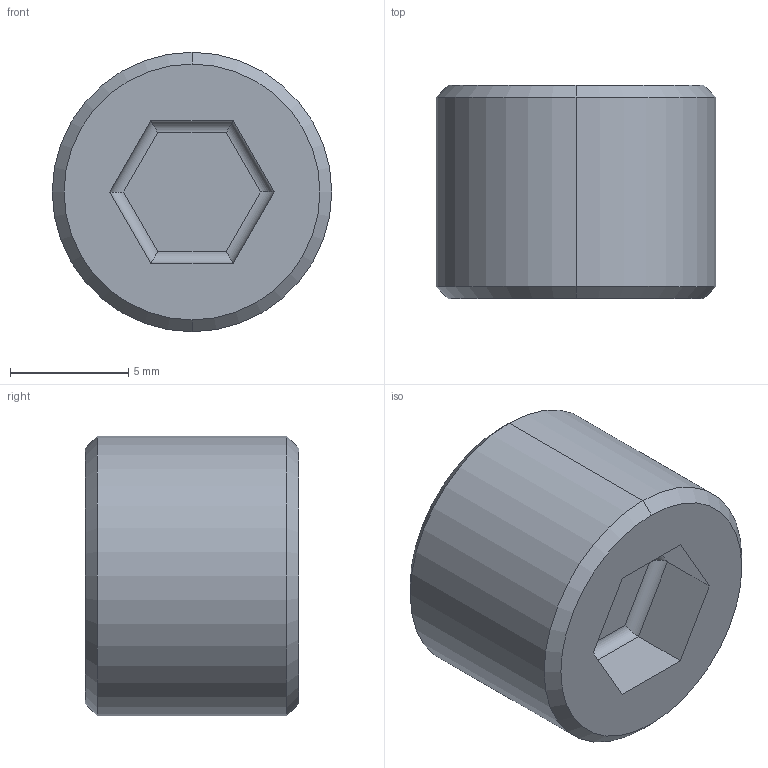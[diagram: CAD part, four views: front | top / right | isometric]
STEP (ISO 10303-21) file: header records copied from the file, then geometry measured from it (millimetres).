
FILE_DESCRIPTION (( 'STEP AP214' ), '1' );
FILE_NAME ('APF-G14.STEP', '2019-11-18T06:57:07', ( '微软用户' ), ( '微软中国' ), 'SwSTEP 2.0', 'SolidWorks 2016', '' );
FILE_SCHEMA (( 'AUTOMOTIVE_DESIGN' ));
Length unit declared in the file: millimetre
Products named in the file (1): APF-G14
Bounding box: 11.8 x 9 x 11.8 mm (x, y, z)
Volume: 882.4 mm3; surface area: 587.6 mm2
Topology: 1 solids, 1 shells, 21 faces, 44 edges, 26 vertices
Faces by surface type: plane 9, cylinder 8, cone 4
Entity records: 602 total; most frequent: CARTESIAN_POINT 110, DIRECTION 90, ORIENTED_EDGE 88, EDGE_CURVE 44, VECTOR 30, AXIS2_PLACEMENT_3D 30, LINE 30, VERTEX_POINT 26
